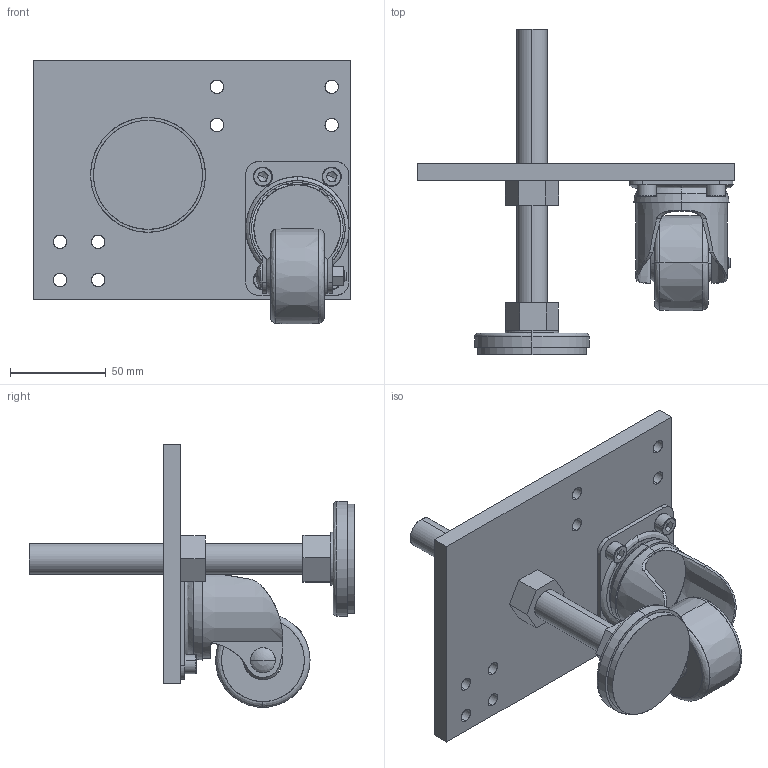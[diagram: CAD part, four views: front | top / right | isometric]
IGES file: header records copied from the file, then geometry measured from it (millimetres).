
Start section: SolidWorks IGES file using analytic representation for surfaces
Global section: file name: C:\Documents and Settings\Administrator\デスクトップ\7回目指定保存後\SolidWorks\SF\SF30\Parts\アジャスタ\SFK-518.IGS; native system: SolidWorks 2006 by SolidWorks Corporation; preprocessor: SolidWorks 2006 by SolidWorks Corporation; author: Administrator; date: 061222.162518; units: millimetre
Bounding box: 166 x 170 x 137.95 mm (x, y, z)
Surface area: 93596.5 mm2 (no closed solid volume)
Topology: 0 solids, 0 shells, 260 faces, 6809 edges, 8020 vertices
Faces by surface type: bspline 142, revolution 118
